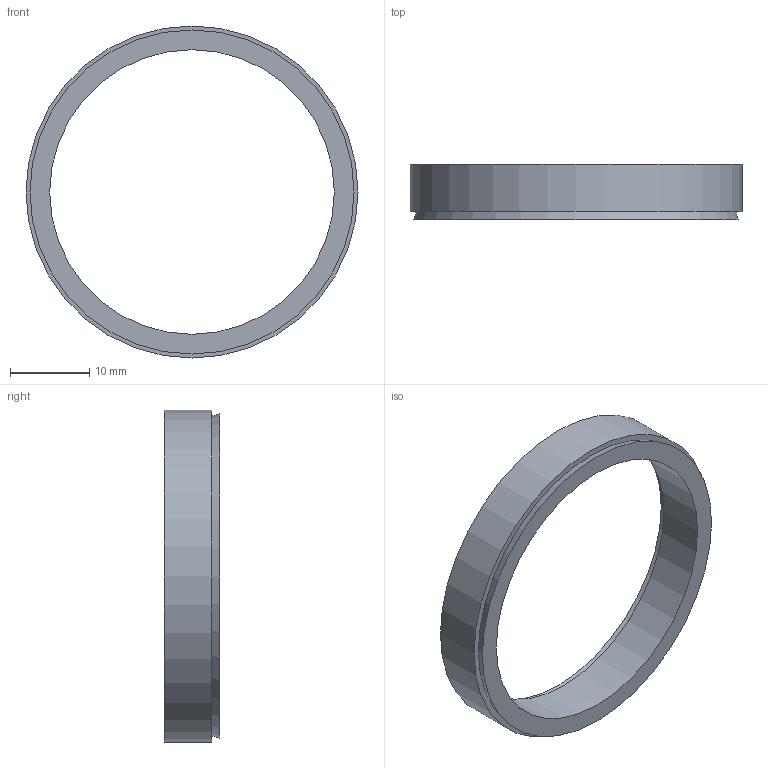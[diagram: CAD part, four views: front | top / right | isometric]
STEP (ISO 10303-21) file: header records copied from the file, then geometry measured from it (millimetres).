
FILE_DESCRIPTION( ( 'Unknown' ), '1' );
FILE_NAME( 'C:/Dokumente und Einstellungen/Sven/Desktop/homepage/cad - homepage/KBS50/KBS 50 - 36 x 42.stp', 'Unknown', ( 'Unknown' ), ( 'Unknown' ), 'XStep 1.0', 'Unknown', ' ' );
FILE_SCHEMA( ( 'automotive_design' ) );
Length unit declared in the file: millimetre
Products named in the file (1): 1
Bounding box: 42 x 7 x 42 mm (x, y, z)
Volume: 2415.4 mm3; surface area: 2530.3 mm2
Topology: 1 solids, 1 shells, 8 faces, 12 edges, 8 vertices
Faces by surface type: plane 4, cylinder 2, cone 2
Full cylindrical faces by diameter (mm): 36 x1, 42 x1
Entity records: 248 total; most frequent: DIRECTION 34, CARTESIAN_POINT 25, AXIS2_PLACEMENT_3D 17, EDGE_LOOP 16, ORIENTED_EDGE 16, FACE_OUTER_BOUND 10, STYLED_ITEM 8, PRESENTATION_STYLE_ASSIGNMENT 8
